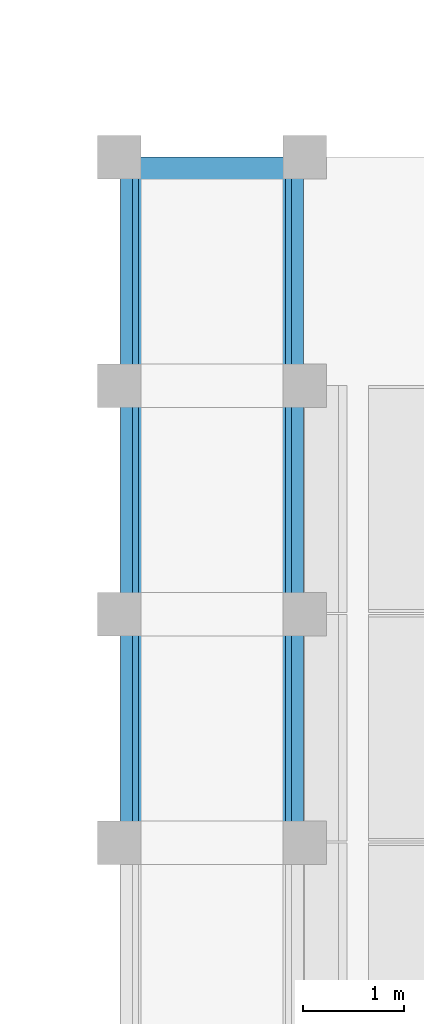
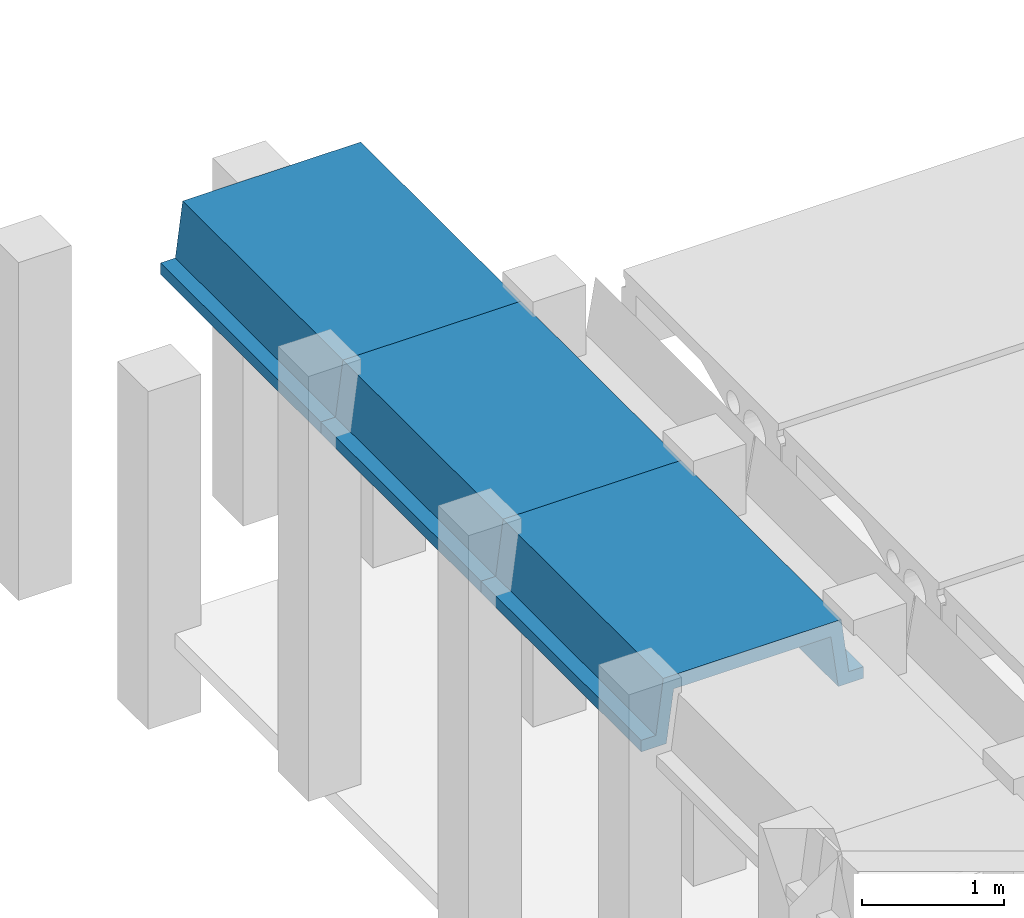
# One storey, part 14 of 18: 3 beams.
"""IFC2X3 building model written with IfcOpenShell, lengths in millimetres."""

from ifc_helpers import new_model, entity, si_unit, converted_unit, derived_unit, direction, frame, origin, place, context, subcontext, project, spatial, polyline, outline, extrude, material, type_object, element, save


model = new_model("IFC2X3")

# Units and contexts
model_context = context("Model", 3, precision=0.01, world=origin(), true_north=direction((6.12303176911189e-17, 1.0)))
body_context = subcontext(model_context, "Body", "Model", "MODEL_VIEW")
ifc_project = project(units=[si_unit("LENGTHUNIT", "METRE", prefix="MILLI"), si_unit("AREAUNIT", "SQUARE_METRE"), si_unit("VOLUMEUNIT", "CUBIC_METRE"), converted_unit("PLANEANGLEUNIT", "DEGREE", entity("IfcRatioMeasure", 0.0174532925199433), si_unit("PLANEANGLEUNIT", "RADIAN"), dimensions=[0, 0, 0, 0, 0, 0, 0]), si_unit("MASSUNIT", "GRAM", prefix="KILO"), derived_unit("MASSDENSITYUNIT", [(si_unit("MASSUNIT", "GRAM", prefix="KILO"), 1), (si_unit("LENGTHUNIT", "METRE"), -3)]), derived_unit("MOMENTOFINERTIAUNIT", [(si_unit("LENGTHUNIT", "METRE"), 4)]), si_unit("TIMEUNIT", "SECOND"), si_unit("FREQUENCYUNIT", "HERTZ"), si_unit("THERMODYNAMICTEMPERATUREUNIT", "DEGREE_CELSIUS"), derived_unit("THERMALTRANSMITTANCEUNIT", [(si_unit("MASSUNIT", "GRAM", prefix="KILO"), 1), (si_unit("THERMODYNAMICTEMPERATUREUNIT", "KELVIN"), -1), (si_unit("TIMEUNIT", "SECOND"), -3)]), derived_unit("VOLUMETRICFLOWRATEUNIT", [(si_unit("LENGTHUNIT", "METRE"), 3), (si_unit("TIMEUNIT", "SECOND"), -1)]), si_unit("ELECTRICCURRENTUNIT", "AMPERE"), si_unit("ELECTRICVOLTAGEUNIT", "VOLT"), si_unit("POWERUNIT", "WATT"), si_unit("FORCEUNIT", "NEWTON", prefix="KILO"), si_unit("ILLUMINANCEUNIT", "LUX"), si_unit("LUMINOUSFLUXUNIT", "LUMEN"), si_unit("LUMINOUSINTENSITYUNIT", "CANDELA"), derived_unit("USERDEFINED", [(si_unit("MASSUNIT", "GRAM", prefix="KILO"), -1), (si_unit("LENGTHUNIT", "METRE"), -2), (si_unit("TIMEUNIT", "SECOND"), 3), (si_unit("LUMINOUSFLUXUNIT", "LUMEN"), 1)]), derived_unit("LINEARVELOCITYUNIT", [(si_unit("LENGTHUNIT", "METRE"), 1), (si_unit("TIMEUNIT", "SECOND"), -1)]), si_unit("PRESSUREUNIT", "PASCAL"), derived_unit("USERDEFINED", [(si_unit("LENGTHUNIT", "METRE"), -2), (si_unit("MASSUNIT", "GRAM", prefix="KILO"), 1), (si_unit("TIMEUNIT", "SECOND"), -2)]), derived_unit("LINEARFORCEUNIT", [(si_unit("MASSUNIT", "GRAM", prefix="KILO"), 1), (si_unit("LENGTHUNIT", "METRE"), 1), (si_unit("TIMEUNIT", "SECOND"), -2), (si_unit("LENGTHUNIT", "METRE"), -1)]), derived_unit("PLANARFORCEUNIT", [(si_unit("MASSUNIT", "GRAM", prefix="KILO"), 1), (si_unit("LENGTHUNIT", "METRE"), 1), (si_unit("TIMEUNIT", "SECOND"), -2), (si_unit("LENGTHUNIT", "METRE"), -2)])], contexts=[model_context])

# Site, building, storey
site_placement = place(None, frame((10627.5135316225, 21939.0796949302, 0.0)))
site = spatial("IfcSite", under=ifc_project, at=site_placement, Name="Default", CompositionType="ELEMENT")
building_placement = place(site_placement, origin())
building = spatial("IfcBuilding", under=site, at=building_placement, CompositionType="ELEMENT")
storey_placement = place(building_placement, frame((0.0, 0.0, 3660.0)))
storey = spatial("IfcBuildingStorey", under=building, at=storey_placement, Name="R+1", CompositionType="ELEMENT", Elevation=3660.0)

# Beams
ifc_material = material(Name="Concrete, Precast Smooth, Light Grey")
beam_type = type_object("IfcBeamType", Name="Poutre petite:Poutre petite", PredefinedType="NOTDEFINED")
beam_1_placement = place(storey_placement, frame((52487.4864683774, 14220.9203050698, 3530.0), z_axis=(0.0, 0.0, 1.0), x_axis=(0.0, 1.0, 0.0)))
element("IfcBeam", 1, at=beam_1_placement, inside=storey, type_object=beam_type, material=ifc_material, Name="Poutre petite:Poutre petite", ObjectType="Poutre petite:Poutre petite", context=body_context, shape_type="SweptSolid", body=[
    extrude(outline(polyline([(103.333217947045, -905.014058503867), (203.333564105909, -905.014058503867), (203.333564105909, -700.0135432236), (-246.666782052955, -640.013497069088), (-246.666782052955, 640.013684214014), (203.333564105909, 700.013730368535), (203.333564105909, 905.013684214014), (103.333217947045, 905.013684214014), (103.333217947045, 785.013684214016), (-366.666782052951, 725.01368421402), (-366.666782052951, -725.013497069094), (103.333217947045, -785.013497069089), (103.333217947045, -905.014058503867)])), frame((0.0, 0.000187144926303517, -366.666782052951), z_axis=(1.0, 0.0, 0.0), x_axis=(0.0, 0.0, -1.0)), (0.0, 0.0, 1.0), 2260.0),
])
beam_2_placement = place(storey_placement, frame((52487.4864683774, 11960.9203050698, 3530.0), z_axis=(0.0, 0.0, 1.0), x_axis=(0.0, 1.0, 0.0)))
element("IfcBeam", 2, at=beam_2_placement, inside=storey, type_object=beam_type, material=ifc_material, Name="Poutre petite:Poutre petite", ObjectType="Poutre petite:Poutre petite", context=body_context, shape_type="SweptSolid", body=[
    extrude(outline(polyline([(103.333217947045, -905.014058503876), (203.333564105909, -905.014058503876), (203.333564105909, -700.013543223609), (-246.666782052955, -640.013497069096), (-246.666782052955, 640.013684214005), (203.333564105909, 700.013730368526), (203.333564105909, 905.013684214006), (103.333217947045, 905.013684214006), (103.333217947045, 785.013684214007), (-366.666782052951, 725.013684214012), (-366.666782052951, -725.013497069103), (103.333217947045, -785.013497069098), (103.333217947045, -905.014058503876)])), frame((0.0, 0.000187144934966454, -366.666782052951), z_axis=(1.0, 0.0, 0.0), x_axis=(0.0, 0.0, -1.0)), (0.0, 0.0, 1.0), 2260.0),
])
beam_3_placement = place(storey_placement, frame((52487.4864683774, 9700.92030506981, 3530.0), z_axis=(0.0, 0.0, 1.0), x_axis=(0.0, 1.0, 0.0)))
element("IfcBeam", 3, at=beam_3_placement, inside=storey, type_object=beam_type, material=ifc_material, Name="Poutre petite:Poutre petite", ObjectType="Poutre petite:Poutre petite", context=body_context, shape_type="SweptSolid", body=[
    extrude(outline(polyline([(103.333217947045, -905.014058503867), (203.333564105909, -905.014058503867), (203.333564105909, -700.0135432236), (-246.666782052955, -640.013497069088), (-246.666782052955, 640.013684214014), (203.333564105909, 700.013730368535), (203.333564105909, 905.013684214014), (103.333217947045, 905.013684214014), (103.333217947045, 785.013684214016), (-366.666782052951, 725.01368421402), (-366.666782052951, -725.013497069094), (103.333217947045, -785.013497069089), (103.333217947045, -905.014058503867)])), frame((0.0, 0.000187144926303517, -366.666782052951), z_axis=(1.0, 0.0, 0.0), x_axis=(0.0, 0.0, -1.0)), (0.0, 0.0, 1.0), 2260.0),
])

save(model, "model.ifc")
